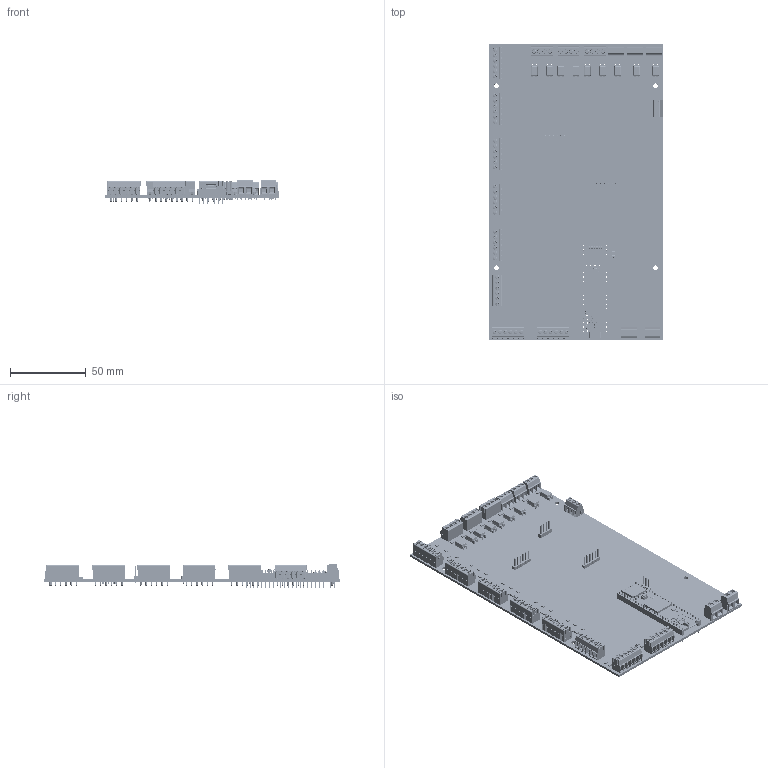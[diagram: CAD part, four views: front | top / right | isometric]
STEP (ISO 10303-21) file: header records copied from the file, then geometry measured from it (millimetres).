
FILE_DESCRIPTION(('Open CASCADE Model'),'2;1');
FILE_NAME('Open CASCADE Shape Model','2019-11-20T13:11:08',('Author'),( 'Open CASCADE'),'Open CASCADE STEP processor 6.5','Open CASCADE 6.5' ,'Unknown');
FILE_SCHEMA(('AUTOMOTIVE_DESIGN { 1 0 10303 214 1 1 1 1 }'));
Length unit declared in the file: millimetre
Products named in the file (185): PCB; Board; P17; User_Library-Header_Male_6Pin; User_Library-Header_Male_6Pin_PinArray; User_Library-Header_Male_6Pin_BodyArray; P10; uC1; Teensy_3.5_-_3.6; micro_usb_(1); Group#12_(1); micro_usb_plastic_(1); micro_usb_shell_(1); qfp16_v2_(1); package; lead_(1); wson-6_v3; Component28; lead_(2); diode_0402_v1; cap0603_03_v3; cap0402_v2_(1); smt_led_0805_v2; cap0402_v2; resistor_0603_v3; smt_tactile_button_2_v2; Component43; Component44; Component45; Component46; Full_Board; Component37; qfp16_v2; Component21; lead; crystal_dfn4_v8; Component38; Component39; Component40; Component41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
Assembly tree (403 placements, depth 6):
  PCB
    Board
    P17
      User_Library-Header_Male_6Pin
        User_Library-Header_Male_6Pin_PinArray
        User_Library-Header_Male_6Pin_BodyArray
    P10
      User_Library-Header_Male_6Pin
        User_Library-Header_Male_6Pin_PinArray
        User_Library-Header_Male_6Pin_BodyArray
    uC1
      Teensy_3.5_-_3.6
        micro_usb_(1)
          Group#12_(1)  x5
          micro_usb_plastic_(1)
          micro_usb_shell_(1)
        qfp16_v2_(1)
          package
          lead_(1)
        wson-6_v3
          Component28
          lead_(2)
        diode_0402_v1  x4
        cap0603_03_v3  x5
        cap0402_v2_(1)  x2
        smt_led_0805_v2
        cap0402_v2  x5
        resistor_0603_v3
        smt_tactile_button_2_v2
          Component43
          Component44
          Component45
          Component46
        Full_Board
        Component37
        qfp16_v2
          Component21
          lead
        crystal_dfn4_v8
          Component38
          Component39
          Component40
          Component41
        HR5_DM3D_Micro_SD_Card_v4
          Base
          Pins
            Component2  x8
          Case
        Component38_(1)
        Component39_(1)
    U3
      User_Library-DIP4
    U2
      User_Library-DIP4
    U1
      User_Library-DIP4
    T21
      1618021872
        Extruded
    T20
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Bounding box: 115 x 195 x 15.9 mm (x, y, z)
Volume: 54376.2 mm3; surface area: 86727.4 mm2
Topology: 525 solids, 531 shells, 19399 faces, 52327 edges, 33925 vertices
Faces by surface type: plane 14191, cylinder 3783, bspline 770, cone 363, sphere 96, extrusion 80, revolution 68, torus 48
Full cylindrical faces by diameter (mm): 0.813 x36, 0.914 x3, 0.991 x53, 1 x4, 1.016 x12, 1.05 x4, 1.06 x4, 1.2 x12, 1.27 x12, 1.3 x52, 3 x4
Entity records: 338562 total; most frequent: CARTESIAN_POINT 108286, DIRECTION 34998, VECTOR 21101, LINE 21096, ORIENTED_EDGE 20502, PCURVE 20502, DEFINITIONAL_REPRESENTATION 20502, EDGE_CURVE 10262
